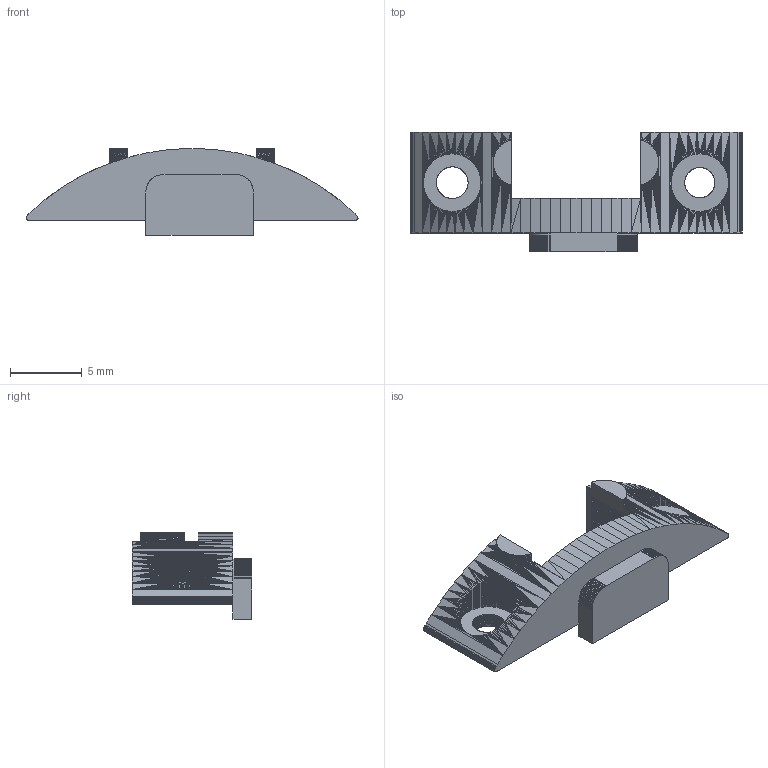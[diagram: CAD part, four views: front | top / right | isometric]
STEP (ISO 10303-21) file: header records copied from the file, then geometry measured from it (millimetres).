
FILE_DESCRIPTION(('Open CASCADE Model'),'2;1');
FILE_NAME('Open CASCADE Shape Model','2026-10-25T00:07:41',('Author'),( 'Open CASCADE'),'Open CASCADE STEP processor 7.9','Open CASCADE 7.9' ,'Unknown');
FILE_SCHEMA(('AUTOMOTIVE_DESIGN { 1 0 10303 214 1 1 1 1 }'));
Products named in the file (1): Open CASCADE STEP translator 7.9 1
Bounding box: 23.09 x 8.3 x 6.04 mm (x, y, z)
Volume: 348.6 mm3; surface area: 559 mm2
Topology: 1 solids, 1 shells, 2144 faces, 4406 edges, 2264 vertices
Faces by surface type: plane 2144
Entity records: 109826 total; most frequent: CARTESIAN_POINT 17627, DIRECTION 17508, LINE 13218, VECTOR 13218, ORIENTED_EDGE 8812, PCURVE 8812, DEFINITIONAL_REPRESENTATION 8812, EDGE_CURVE 4406
